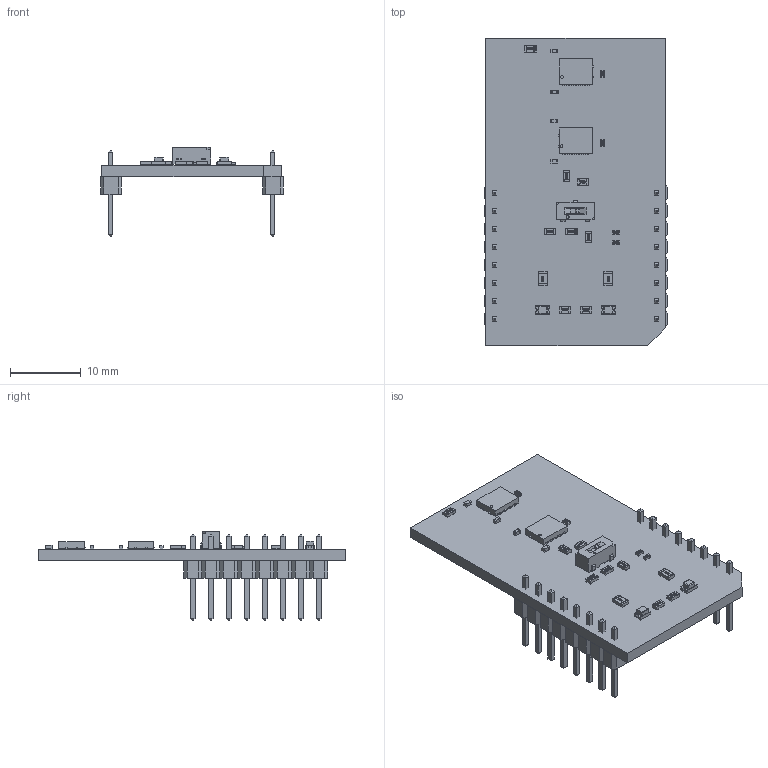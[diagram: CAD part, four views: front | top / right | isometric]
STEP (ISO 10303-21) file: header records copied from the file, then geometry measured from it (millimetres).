
FILE_DESCRIPTION(('Open CASCADE Model'),'2;1');
FILE_NAME('Open CASCADE Shape Model','2026-03-02T12:04:45',('Author'),( 'Open CASCADE'),'Open CASCADE STEP processor 6.8','Open CASCADE 6.8' ,'Unknown');
FILE_SCHEMA(('AUTOMOTIVE_DESIGN { 1 0 10303 214 1 1 1 1 }'));
Length unit declared in the file: millimetre
Products named in the file (51): PCB; Board; R12; User_Library-R_0603; R11; R10; User_Library-R_0805; R9; R7; R6; MBD1; Header_1x8; Free-Models; 1240637040; User_Library-PinHeaderX5-1_PinHeaderX5_Body_1; User_Library-PinHeaderX5-1_PinHeaderX5_Pins_1; C1; User_Library-SMD_CAPACITOR0402; C2; C3; C4; LD2; led_0805_green; R2; R15; User_Library-R_0402; R3; R5; U1; 862163424; Cylinder; 862486608; Extruded; 862480352; 862477768; U2; 862487560; R14; R13; LD1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
Assembly tree (108 placements, depth 7):
  PCB
    Board
    R12
      User_Library-R_0603
    R11
      User_Library-R_0603
    R10
      User_Library-R_0805
    R9
      User_Library-R_0805
    R7
      User_Library-R_0603
    R6
      User_Library-R_0603
    MBD1
      Header_1x8  x2
        PCB
          Free-Models
            1240637040  x2
              User_Library-PinHeaderX5-1_PinHeaderX5_Body_1
              User_Library-PinHeaderX5-1_PinHeaderX5_Pins_1
    C1
      User_Library-SMD_CAPACITOR0402
    C2
      User_Library-SMD_CAPACITOR0402
    C3
      User_Library-SMD_CAPACITOR0402
    C4
      User_Library-SMD_CAPACITOR0402
    LD2
      led_0805_green
    R2
      User_Library-R_0603
    R15
      User_Library-R_0402
    R3
      User_Library-R_0402
    R5
      User_Library-R_0603
    U1
      862163424
        Cylinder
      862486608  x4
        Extruded
      862480352  x16
        Extruded
      862477768
        Extruded
    U2
      862163424
        Cylinder
      862486608  x3
        Extruded
      862480352  x16
        Extruded
      862487560
        Extruded
      862477768
        Extruded
    R14
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Bounding box: 25.78 x 43.41 x 12.61 mm (x, y, z)
Volume: 2358.4 mm3; surface area: 4086.4 mm2
Topology: 120 solids, 120 shells, 2401 faces, 5899 edges, 3812 vertices
Faces by surface type: plane 1707, bspline 548, cylinder 106, sphere 40
Full cylindrical faces by diameter (mm): 0.4 x2
Entity records: 28230 total; most frequent: CARTESIAN_POINT 10336, ORIENTED_EDGE 2904, DIRECTION 2464, EDGE_CURVE 1452, LINE 1148, VECTOR 1148, VERTEX_POINT 942, AXIS2_PLACEMENT_3D 658
